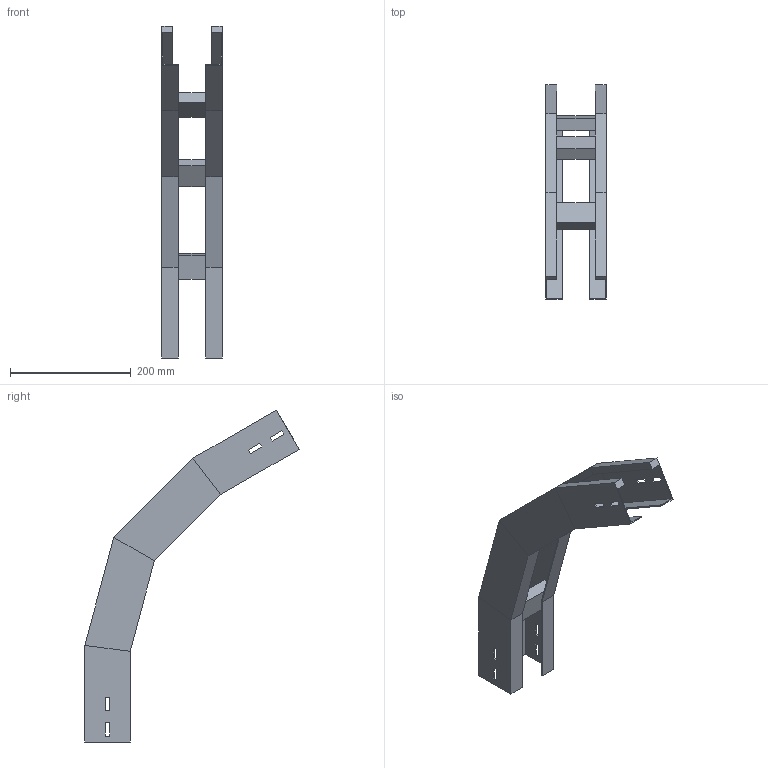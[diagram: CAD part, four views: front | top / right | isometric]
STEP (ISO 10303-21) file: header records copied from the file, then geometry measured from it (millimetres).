
FILE_DESCRIPTION (( 'STEP AP214' ), '1' );
FILE_NAME ('A2_41B3C100.step', '2025-02-21T14:59:50', ( '' ), ( '' ), 'SwSTEP 2.0', 'SolidWorks 2023', '' );
FILE_SCHEMA (( 'AUTOMOTIVE_DESIGN' ));
Length unit declared in the file: millimetre
Products named in the file (3): A2_41B3C100; TRAVERSINO_100; LONGH.DISCESA_60°_H75_R300
Assembly tree (5 placements, depth 2):
  A2_41B3C100
    LONGH.DISCESA_60°_H75_R300  x2
    TRAVERSINO_100  x3
Bounding box: 100 x 354.62 x 549.27 mm (x, y, z)
Volume: 749267.7 mm3; surface area: 344730.3 mm2
Topology: 5 solids, 5 shells, 118 faces, 276 edges, 168 vertices
Faces by surface type: plane 118
Entity records: 1672 total; most frequent: CARTESIAN_POINT 276, ORIENTED_EDGE 264, DIRECTION 260, VECTOR 132, LINE 132, EDGE_CURVE 132, VERTEX_POINT 80, EDGE_LOOP 64
